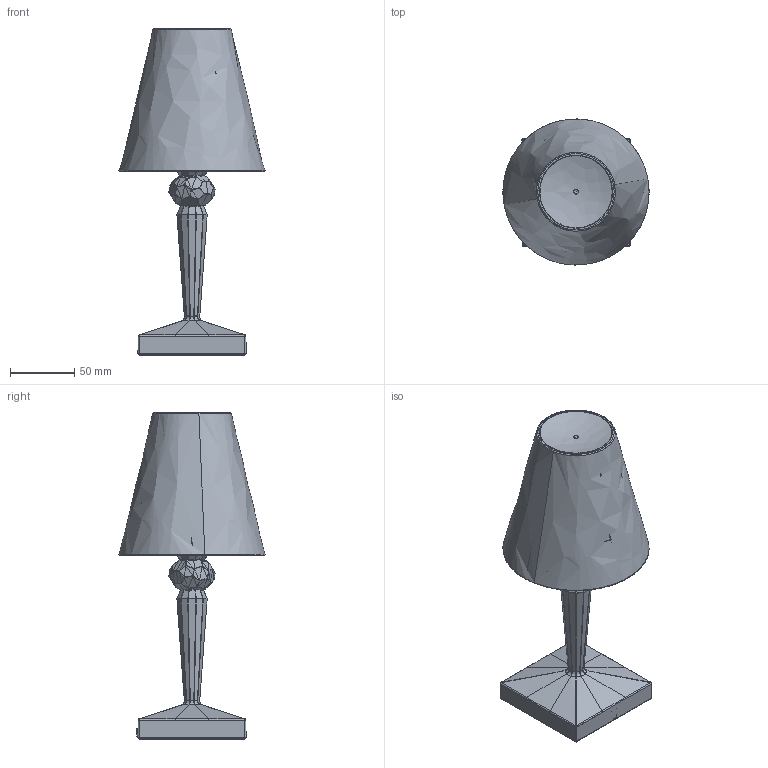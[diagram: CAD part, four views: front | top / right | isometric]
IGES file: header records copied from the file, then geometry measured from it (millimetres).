
Global section: file name: C:\Users\rendering\Desktop\09145\3D_Battery_Ferruccio Laviani_Kartell.igs; native system: Rhinoceros ( May 23 2016 ); preprocessor: Trout Lake IGES 012 May 23 2016; date: 170516.070322; units: millimetre
Bounding box: 113.61 x 113.58 x 254.23 mm (x, y, z)
Surface area: 159815.2 mm2 (no closed solid volume)
Topology: 0 solids, 0 shells, 2240 faces, 13024 edges, 12973 vertices
Faces by surface type: bspline 2240
